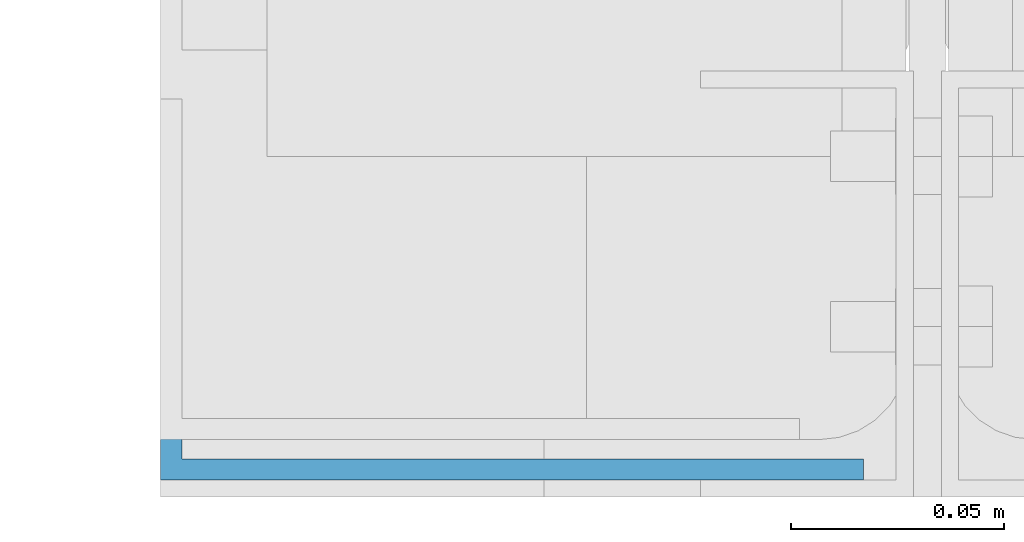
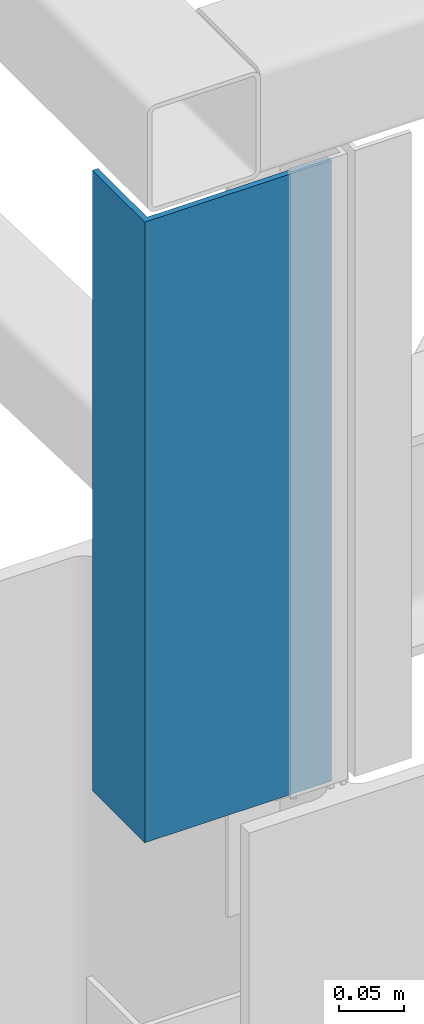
# One storey, part 121 of 123: 1 beam, 1 element without a shape of its own.
"""IFC2X3 building model written with IfcOpenShell, lengths in millimetres."""

from ifc_helpers import new_model, si_unit, frame, origin_with_axes, place, context, subcontext, project, spatial, faceted_brep, material, type_object, element, aggregate, save


model = new_model("IFC2X3")

# Units and contexts
model_context = context("Model", 3, precision=1e-05, world=origin_with_axes())
body_context = subcontext(model_context, "Body", "Model", "MODEL_VIEW")
ifc_project = project(units=[si_unit("LENGTHUNIT", "METRE", prefix="MILLI"), si_unit("AREAUNIT", "SQUARE_METRE"), si_unit("VOLUMEUNIT", "CUBIC_METRE"), si_unit("MASSUNIT", "GRAM", prefix="KILO"), si_unit("TIMEUNIT", "SECOND"), si_unit("PLANEANGLEUNIT", "RADIAN"), si_unit("SOLIDANGLEUNIT", "STERADIAN"), si_unit("THERMODYNAMICTEMPERATUREUNIT", "DEGREE_CELSIUS"), si_unit("LUMINOUSINTENSITYUNIT", "LUMEN")], contexts=[model_context])

# Site, building, storey
site_placement = place(None, origin_with_axes())
site = spatial("IfcSite", under=ifc_project, at=site_placement, Name="Undefined", CompositionType="ELEMENT")
building_placement = place(site_placement, origin_with_axes())
building = spatial("IfcBuilding", under=site, at=building_placement, Name="Undefined", CompositionType="ELEMENT")
storey_placement = place(building_placement, origin_with_axes())
storey = spatial("IfcBuildingStorey", under=building, at=storey_placement, Name="Undefined", CompositionType="ELEMENT", Elevation=0.0)

# Assembly, beam
assembly_placement = place(storey_placement, origin_with_axes())
assembly = element("IfcElementAssembly", 1, at=assembly_placement, inside=storey, Name="Steel Assembly", AssemblyPlace="NOTDEFINED", PredefinedType="RIGID_FRAME")
ifc_material = material(Name="STEEL/S235-E24")
beam_type = type_object("IfcBeamType", Name="PL5*580", PredefinedType="NOTDEFINED")
beam_placement = place(assembly_placement, frame((-14.9998849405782, -173.500000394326, 8150.00301431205), z_axis=(0.0, 0.0, 1.0), x_axis=(-1.0, 0.0, 0.0)))
beam = element("IfcBeam", 2, at=beam_placement, type_object=beam_type, material=ifc_material, Name="FEUILLURE", ObjectType="PL5*580", context=body_context, shape_type="Brep", body=[
    faceted_brep([(1.03216457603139e-09, -2.5, -290.0), (1.03216457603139e-09, -2.5, 290.0), (-1.03216102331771e-09, 2.5, 290.0), (-1.03216102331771e-09, 2.5, -290.0), (165.000030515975, 2.50000006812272, 290.0), (165.000030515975, 2.50000006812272, -290.0), (160.000030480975, -2.49999993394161, -290.0), (160.000030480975, -2.49999993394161, 290.0), (165.000029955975, -77.5000011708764, 290.0), (165.000029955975, -77.5000011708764, -290.0), (160.000029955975, -77.5000011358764, 290.0), (160.000029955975, -77.5000011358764, -290.0)], [[[0, 1, 2, 3]], [[3, 2, 4, 5]], [[1, 0, 6, 7]], [[5, 4, 8, 9]], [[4, 2, 1, 7, 10, 8]], [[7, 6, 11, 10]], [[6, 0, 3, 5, 9, 11]], [[10, 11, 9, 8]]]),
])
aggregate(assembly, [beam])

save(model, "model.ifc")
